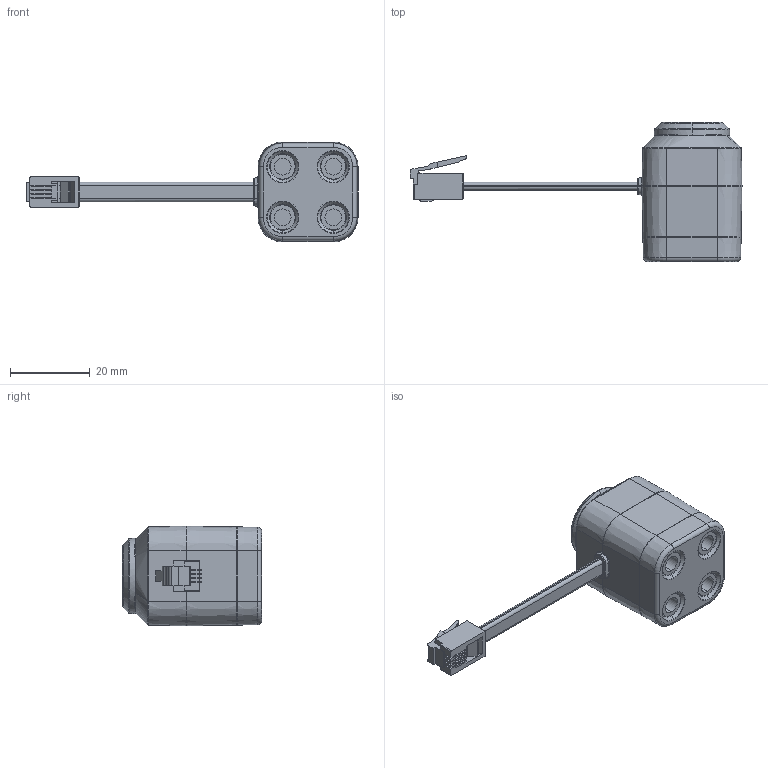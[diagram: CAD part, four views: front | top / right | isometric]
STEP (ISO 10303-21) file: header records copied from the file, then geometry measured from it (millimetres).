
FILE_DESCRIPTION (( 'STEP AP214' ), '1' );
FILE_NAME ('269-6702-000 TO RELEASE.STEP', '2021-02-19T20:48:07', ( '' ), ( '' ), 'SwSTEP 2.0', 'SolidWorks 2019', '' );
FILE_SCHEMA (( 'AUTOMOTIVE_DESIGN' ));
Length unit declared in the file: millimetre
Products named in the file (1): 269-6702-000 TO RELEASE
Bounding box: 83.34 x 34.95 x 25.1 mm (x, y, z)
Volume: 19445.4 mm3; surface area: 6339 mm2
Topology: 3 solids, 9 shells, 496 faces, 1286 edges, 807 vertices
Faces by surface type: plane 272, cylinder 105, cone 52, bspline 35, torus 32
Entity records: 22701 total; most frequent: CARTESIAN_POINT 5493, ORIENTED_EDGE 2564, DIRECTION 2406, EDGE_CURVE 1282, LINE 838, VECTOR 838, VERTEX_POINT 807, AXIS2_PLACEMENT_3D 784
